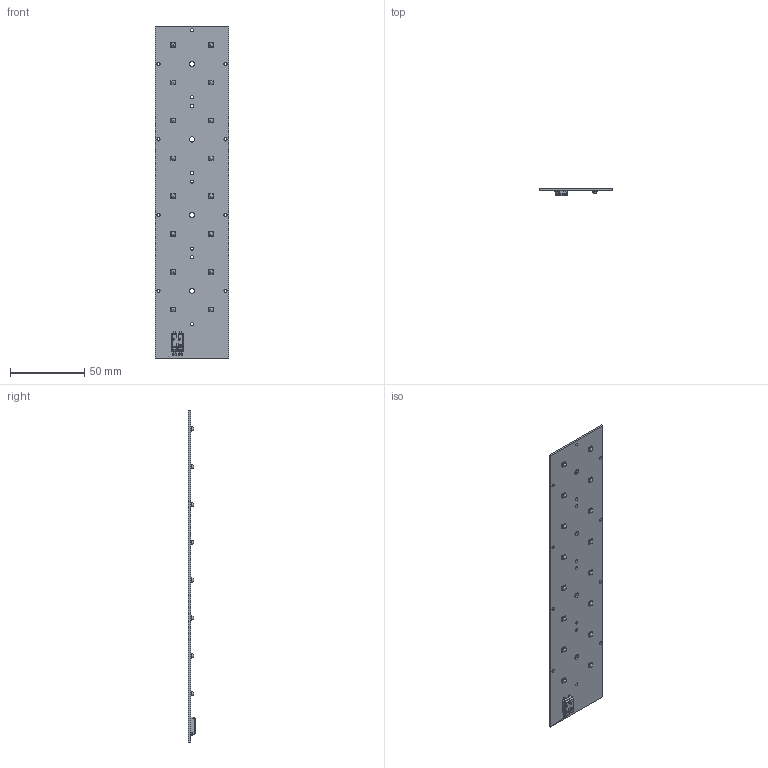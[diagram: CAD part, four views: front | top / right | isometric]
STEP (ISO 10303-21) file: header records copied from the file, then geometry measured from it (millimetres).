
FILE_DESCRIPTION(/* description */ ('Unknown'),/* implementation_level */ '2;1');
FILE_NAME(/* name */ 'RecLED 224x50mm 3800lm 2x8 sh-000 2024-01-16 ',/* time_stamp */ '2024-01-16T14:32:11+01:00',/* author */ ('Unknown'),/* organization */ ('Unknown'),/* preprocessor_version */ 'ST-DEVELOPER v18.102',/* originating_system */ 'Solid Edge',/* authorisation */ 'Unknown');
FILE_SCHEMA (('AUTOMOTIVE_DESIGN {1 0 10303 214 3 1 1}'));
Length unit declared in the file: millimetre
Products named in the file (1): RecLED 224x50mm 3800lm 2x8 sh-000 2024-01-16 
Bounding box: 49.5 x 4.95 x 223 mm (x, y, z)
Volume: 16847.7 mm3; surface area: 23634.3 mm2
Topology: 1 solids, 1 shells, 1075 faces, 2872 edges, 1836 vertices
Faces by surface type: plane 499, cylinder 412, torus 84, cone 44, bspline 26, sphere 10
Full cylindrical faces by diameter (mm): 2.1 x16, 3.5 x4
Entity records: 41499 total; most frequent: CARTESIAN_POINT 7645, ORIENTED_EDGE 5530, DIRECTION 5198, EDGE_CURVE 2765, VERTEX_POINT 1811, AXIS2_PLACEMENT_3D 1790, LINE 1618, VECTOR 1618
